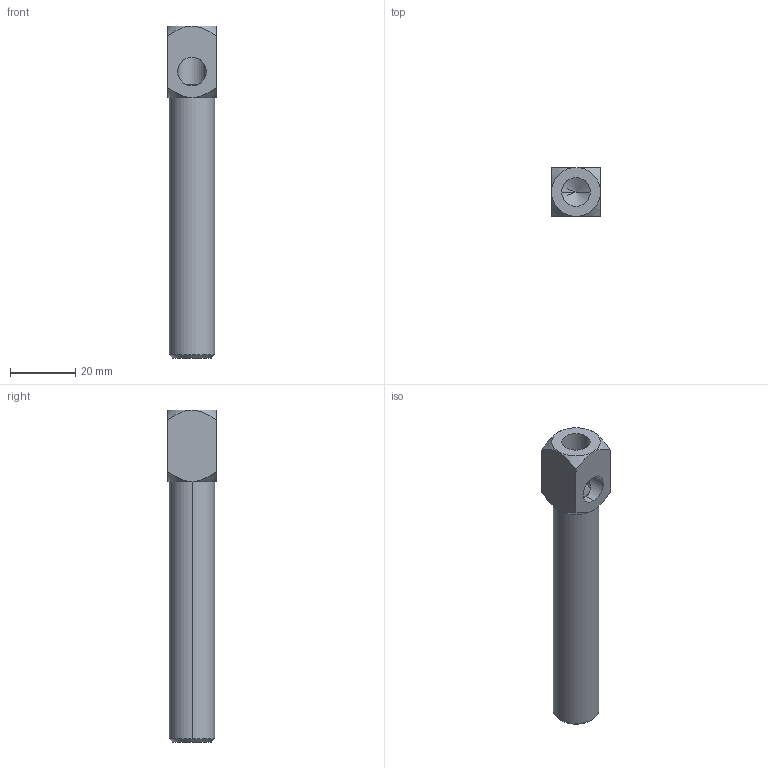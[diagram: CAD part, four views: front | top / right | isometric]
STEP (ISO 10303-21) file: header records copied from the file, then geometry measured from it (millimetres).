
FILE_DESCRIPTION (( 'STEP AP214' ), '1' );
FILE_NAME ('SVE-G181480.STEP', '2023-01-18T06:25:20', ( 'Windows User' ), ( 'P R C' ), 'SwSTEP 2.0', 'SolidWorks 2019', '' );
FILE_SCHEMA (( 'AUTOMOTIVE_DESIGN' ));
Length unit declared in the file: millimetre
Products named in the file (1): SVE-G181480
Bounding box: 15 x 15 x 102 mm (x, y, z)
Volume: 9711.2 mm3; surface area: 8053.5 mm2
Topology: 1 solids, 1 shells, 34 faces, 80 edges, 45 vertices
Faces by surface type: cone 16, cylinder 12, plane 6
Entity records: 1117 total; most frequent: CARTESIAN_POINT 350, DIRECTION 155, ORIENTED_EDGE 152, EDGE_CURVE 76, AXIS2_PLACEMENT_3D 66, VERTEX_POINT 45, EDGE_LOOP 37, FACE_OUTER_BOUND 34
